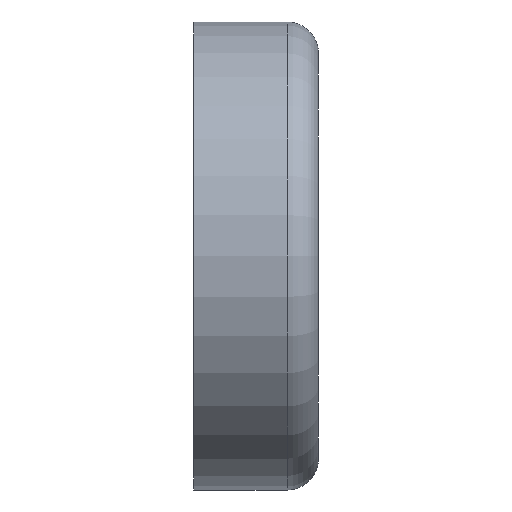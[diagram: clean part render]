
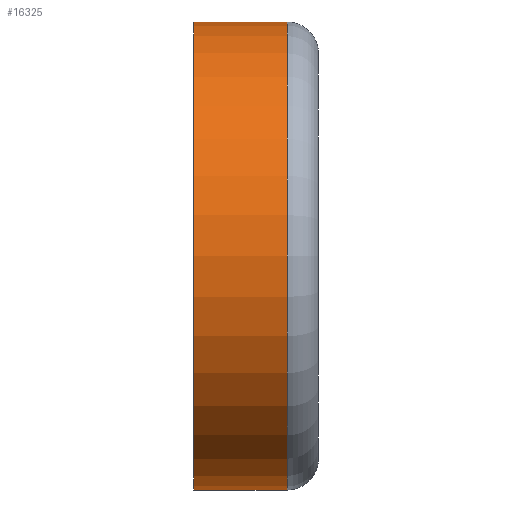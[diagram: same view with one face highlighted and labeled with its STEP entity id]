
A CAD part, front view. The second image highlights one B-rep face of the part: STEP entity #16325.
In plain terms, the highlighted cylindrical face has radius 225 mm (diameter 450 mm), a full revolution.
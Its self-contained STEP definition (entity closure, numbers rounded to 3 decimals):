
#770=CYLINDRICAL_SURFACE('',#17611,225.);
#2490=CIRCLE('',#17610,225.);
#2491=CIRCLE('',#17612,225.);
#3669=ORIENTED_EDGE('',*,*,#8988,.T.);
#3670=ORIENTED_EDGE('',*,*,#8987,.F.);
#8987=EDGE_CURVE('',#11632,#11632,#2490,.T.);
#8988=EDGE_CURVE('',#11633,#11633,#2491,.T.);
#11632=VERTEX_POINT('',#26398);
#11633=VERTEX_POINT('',#26401);
#13920=EDGE_LOOP('',(#3669));
#13921=EDGE_LOOP('',(#3670));
#15108=FACE_BOUND('',#13920,.T.);
#15109=FACE_BOUND('',#13921,.T.);
#16325=ADVANCED_FACE('',(#15108,#15109),#770,.T.);
#17610=AXIS2_PLACEMENT_3D('',#26397,#19225,#19226);
#17611=AXIS2_PLACEMENT_3D('',#26399,#19227,#19228);
#17612=AXIS2_PLACEMENT_3D('',#26400,#19229,#19230);
#19225=DIRECTION('',(-1.,0.,0.));
#19226=DIRECTION('',(0.,0.,1.));
#19227=DIRECTION('',(-1.,0.,0.));
#19228=DIRECTION('',(0.,0.,1.));
#19229=DIRECTION('',(-1.,0.,0.));
#19230=DIRECTION('',(0.,0.,1.));
#26397=CARTESIAN_POINT('',(0.,0.,0.));
#26398=CARTESIAN_POINT('',(0.,0.,225.));
#26399=CARTESIAN_POINT('',(60.,0.,0.));
#26400=CARTESIAN_POINT('',(90.,0.,0.));
#26401=CARTESIAN_POINT('',(90.,0.,225.));
